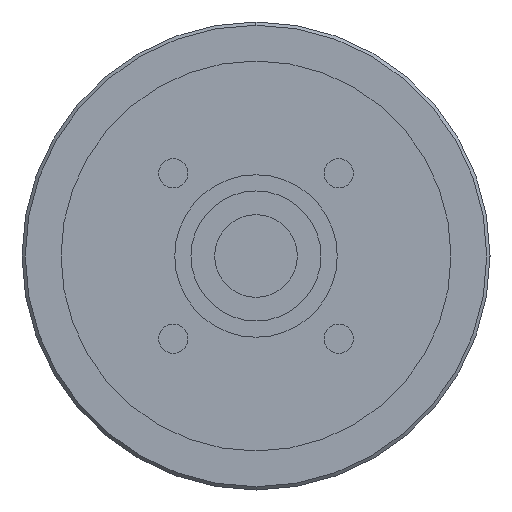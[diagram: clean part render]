
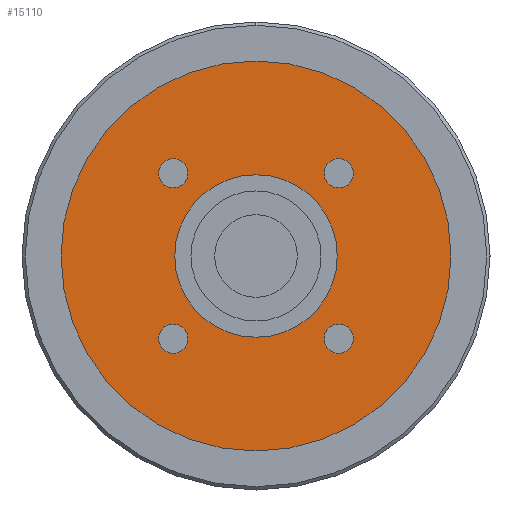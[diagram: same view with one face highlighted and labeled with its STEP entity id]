
A CAD part, left-side view. The second image highlights one B-rep face of the part: STEP entity #15110.
In plain terms, the highlighted planar face has unit normal (-1, 0, 0) as drawn and (0, 0, -1) by its records, which use the part's own axes.
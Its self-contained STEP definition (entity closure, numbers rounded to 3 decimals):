
#11930=CARTESIAN_POINT('',(-10.478,-12.728,-91.));
#11940=VERTEX_POINT('',#11930);
#12120=CARTESIAN_POINT('',(-14.978,-12.728,-91.));
#12130=VERTEX_POINT('',#12120);
#12160=CARTESIAN_POINT('',(-12.728,-12.728,-91.));
#12170=DIRECTION('',(0.,0.,-1.));
#12180=DIRECTION('',(0.,-1.,0.));
#12190=AXIS2_PLACEMENT_3D('',#12160,#12170,#12180);
#12200=CIRCLE('',#12190,2.25);
#12210=CARTESIAN_POINT('',(-12.728,-14.978,-91.));
#12220=VERTEX_POINT('',#12210);
#12230=EDGE_CURVE('',#12220,#12130,#12200,.T.);
#12250=EDGE_CURVE('',#11940,#12220,#12200,.T.);
#12350=CARTESIAN_POINT('',(0.,0.,
-91.));
#12360=DIRECTION('',(0.,0.,1.));
#12370=DIRECTION('',(0.,-1.,0.));
#12380=AXIS2_PLACEMENT_3D('',#12350,#12360,#12370);
#12390=CIRCLE('',#12380,12.5);
#12400=CARTESIAN_POINT('',(0.,-12.5,-91.));
#12410=VERTEX_POINT('',#12400);
#12420=CARTESIAN_POINT('',(12.5,0.,-91.));
#12430=VERTEX_POINT('',#12420);
#12440=EDGE_CURVE('',#12410,#12430,#12390,.T.);
#12670=CARTESIAN_POINT('',(-12.5,0.,-91.));
#12680=VERTEX_POINT('',#12670);
#12710=EDGE_CURVE('',#12680,#12410,#12390,.T.);
#14040=CARTESIAN_POINT('',(30.,0.,-91.));
#14050=VERTEX_POINT('',#14040);
#14080=CARTESIAN_POINT('',(0.,0.,
-91.));
#14090=DIRECTION('',(0.,0.,1.));
#14100=DIRECTION('',(0.,-1.,0.));
#14110=AXIS2_PLACEMENT_3D('',#14080,#14090,#14100);
#14120=CIRCLE('',#14110,30.);
#14130=CARTESIAN_POINT('',(0.,-30.,-91.));
#14140=VERTEX_POINT('',#14130);
#14150=EDGE_CURVE('',#14140,#14050,#14120,.T.);
#14170=CARTESIAN_POINT('',(-30.,0.,-91.));
#14180=VERTEX_POINT('',#14170);
#14190=EDGE_CURVE('',#14180,#14140,#14120,.T.);
#14310=CARTESIAN_POINT('',(0.,0.,
-91.));
#14320=DIRECTION('',(0.,0.,1.));
#14330=DIRECTION('',(-1.,0.,0.));
#14340=AXIS2_PLACEMENT_3D('',#14310,#14320,#14330);
#14350=PLANE('',#14340);
#14360=CARTESIAN_POINT('',(12.728,-12.728,-91.));
#14370=DIRECTION('',(0.,0.,-1.));
#14380=DIRECTION('',(1.,0.,0.));
#14390=AXIS2_PLACEMENT_3D('',#14360,#14370,#14380);
#14400=CIRCLE('',#14390,2.25);
#14410=CARTESIAN_POINT('',(14.978,-12.728,-91.));
#14420=VERTEX_POINT('',#14410);
#14430=CARTESIAN_POINT('',(12.728,-14.978,-91.));
#14440=VERTEX_POINT('',#14430);
#14450=EDGE_CURVE('',#14420,#14440,#14400,.T.);
#14460=ORIENTED_EDGE('',*,*,#14450,.F.);
#14470=CARTESIAN_POINT('',(12.728,-10.478,-91.));
#14480=VERTEX_POINT('',#14470);
#14490=EDGE_CURVE('',#14440,#14480,#14400,.T.);
#14500=ORIENTED_EDGE('',*,*,#14490,.F.);
#14510=EDGE_CURVE('',#14480,#14420,#14400,.T.);
#14520=ORIENTED_EDGE('',*,*,#14510,.F.);
#14530=EDGE_LOOP('',(#14520,#14500,#14460));
#14540=FACE_BOUND('',#14530,.T.);
#14550=CARTESIAN_POINT('',(12.728,12.728,-91.));
#14560=DIRECTION('',(0.,0.,-1.));
#14570=DIRECTION('',(0.,1.,0.));
#14580=AXIS2_PLACEMENT_3D('',#14550,#14560,#14570);
#14590=CIRCLE('',#14580,2.25);
#14600=CARTESIAN_POINT('',(12.728,14.978,-91.));
#14610=VERTEX_POINT('',#14600);
#14620=CARTESIAN_POINT('',(14.978,12.728,-91.));
#14630=VERTEX_POINT('',#14620);
#14640=EDGE_CURVE('',#14610,#14630,#14590,.T.);
#14650=ORIENTED_EDGE('',*,*,#14640,.F.);
#14660=CARTESIAN_POINT('',(10.478,12.728,-91.));
#14670=VERTEX_POINT('',#14660);
#14680=EDGE_CURVE('',#14630,#14670,#14590,.T.);
#14690=ORIENTED_EDGE('',*,*,#14680,.F.);
#14700=EDGE_CURVE('',#14670,#14610,#14590,.T.);
#14710=ORIENTED_EDGE('',*,*,#14700,.F.);
#14720=EDGE_LOOP('',(#14710,#14690,#14650));
#14730=FACE_BOUND('',#14720,.T.);
#14740=CARTESIAN_POINT('',(-12.728,12.728,-91.));
#14750=DIRECTION('',(0.,0.,-1.));
#14760=DIRECTION('',(-1.,0.,0.));
#14770=AXIS2_PLACEMENT_3D('',#14740,#14750,#14760);
#14780=CIRCLE('',#14770,2.25);
#14790=CARTESIAN_POINT('',(-14.978,12.728,-91.));
#14800=VERTEX_POINT('',#14790);
#14810=CARTESIAN_POINT('',(-12.728,14.978,-91.));
#14820=VERTEX_POINT('',#14810);
#14830=EDGE_CURVE('',#14800,#14820,#14780,.T.);
#14840=ORIENTED_EDGE('',*,*,#14830,.F.);
#14850=CARTESIAN_POINT('',(-12.728,10.478,-91.));
#14860=VERTEX_POINT('',#14850);
#14870=EDGE_CURVE('',#14820,#14860,#14780,.T.);
#14880=ORIENTED_EDGE('',*,*,#14870,.F.);
#14890=EDGE_CURVE('',#14860,#14800,#14780,.T.);
#14900=ORIENTED_EDGE('',*,*,#14890,.F.);
#14910=EDGE_LOOP('',(#14900,#14880,#14840));
#14920=FACE_BOUND('',#14910,.T.);
#14930=ORIENTED_EDGE('',*,*,#12230,.F.);
#14940=EDGE_CURVE('',#12130,#11940,#12200,.T.);
#14950=ORIENTED_EDGE('',*,*,#14940,.F.);
#14960=ORIENTED_EDGE('',*,*,#12250,.F.);
#14970=EDGE_LOOP('',(#14960,#14950,#14930));
#14980=FACE_BOUND('',#14970,.T.);
#14990=ORIENTED_EDGE('',*,*,#14150,.F.);
#15000=EDGE_CURVE('',#14050,#14180,#14120,.T.);
#15010=ORIENTED_EDGE('',*,*,#15000,.F.);
#15020=ORIENTED_EDGE('',*,*,#14190,.F.);
#15030=EDGE_LOOP('',(#15020,#15010,#14990));
#15040=FACE_OUTER_BOUND('',#15030,.T.);
#15050=EDGE_CURVE('',#12430,#12680,#12390,.T.);
#15060=ORIENTED_EDGE('',*,*,#15050,.T.);
#15070=ORIENTED_EDGE('',*,*,#12440,.T.);
#15080=ORIENTED_EDGE('',*,*,#12710,.T.);
#15090=EDGE_LOOP('',(#15080,#15070,#15060));
#15100=FACE_BOUND('',#15090,.T.);
#15110=ADVANCED_FACE('',(#14540,#14730,#14920,#14980,#15040,#15100),
#14350,.F.);
